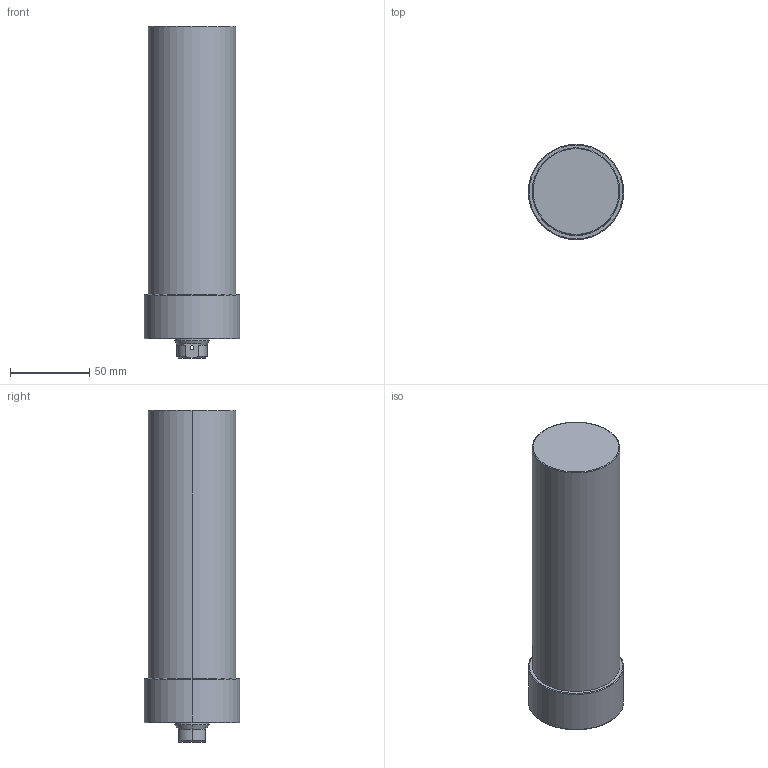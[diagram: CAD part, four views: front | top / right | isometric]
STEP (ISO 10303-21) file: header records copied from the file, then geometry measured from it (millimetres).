
FILE_DESCRIPTION (( 'STEP AP203' ), '1' );
FILE_NAME ('CLLU-055GB-140.STEP', '2020-01-06T07:26:00', ( '' ), ( '' ), 'SwSTEP 2.0', 'SolidWorks 2015', '' );
FILE_SCHEMA (( 'CONFIG_CONTROL_DESIGN' ));
Length unit declared in the file: millimetre
Products named in the file (1): CLLU-055GB-140
Bounding box: 60 x 60 x 209 mm (x, y, z)
Volume: 480974 mm3; surface area: 42572.2 mm2
Topology: 1 solids, 1 shells, 68 faces, 155 edges, 88 vertices
Faces by surface type: cylinder 27, cone 25, plane 10, torus 6
Entity records: 2021 total; most frequent: CARTESIAN_POINT 422, DIRECTION 350, ORIENTED_EDGE 290, AXIS2_PLACEMENT_3D 148, EDGE_CURVE 145, VERTEX_POINT 88, EDGE_LOOP 81, CIRCLE 79
